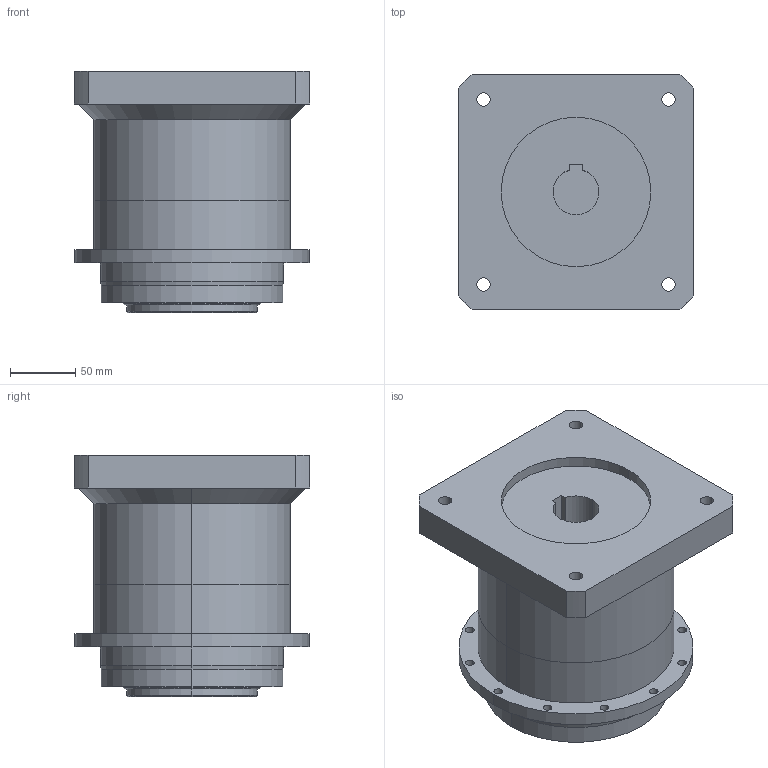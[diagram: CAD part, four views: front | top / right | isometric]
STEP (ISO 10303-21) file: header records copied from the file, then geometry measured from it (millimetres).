
FILE_DESCRIPTION (( 'STEP AP203' ), '1' );
FILE_NAME ('TD-140-L1-35J10-114.3-200-M12.STEP', '2025-06-10T08:57:05', ( 'Microsoft' ), ( 'Microsoft' ), 'SwSTEP 2.0', 'SolidWorks 2016', '' );
FILE_SCHEMA (( 'CONFIG_CONTROL_DESIGN' ));
Length unit declared in the file: millimetre
Products named in the file (1): TD-140-L1-35J10-114.3-200-M12
Bounding box: 180 x 180 x 184.5 mm (x, y, z)
Volume: 3383364.4 mm3; surface area: 225988.3 mm2
Topology: 2 solids, 2 shells, 137 faces, 336 edges, 200 vertices
Faces by surface type: cylinder 83, cone 34, plane 20
Entity records: 4047 total; most frequent: DIRECTION 762, CARTESIAN_POINT 650, ORIENTED_EDGE 624, EDGE_CURVE 312, AXIS2_PLACEMENT_3D 312, VERTEX_POINT 200, EDGE_LOOP 190, CIRCLE 174
